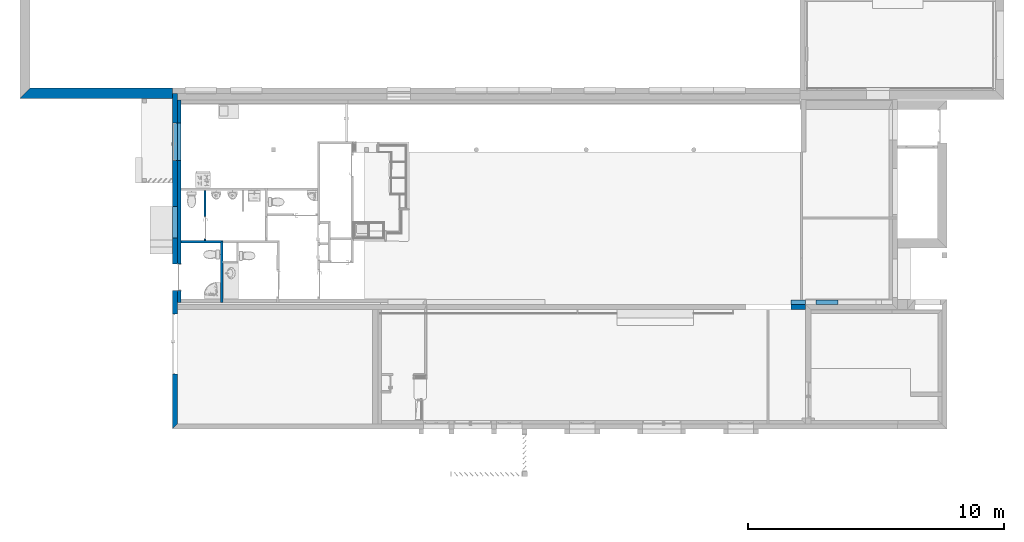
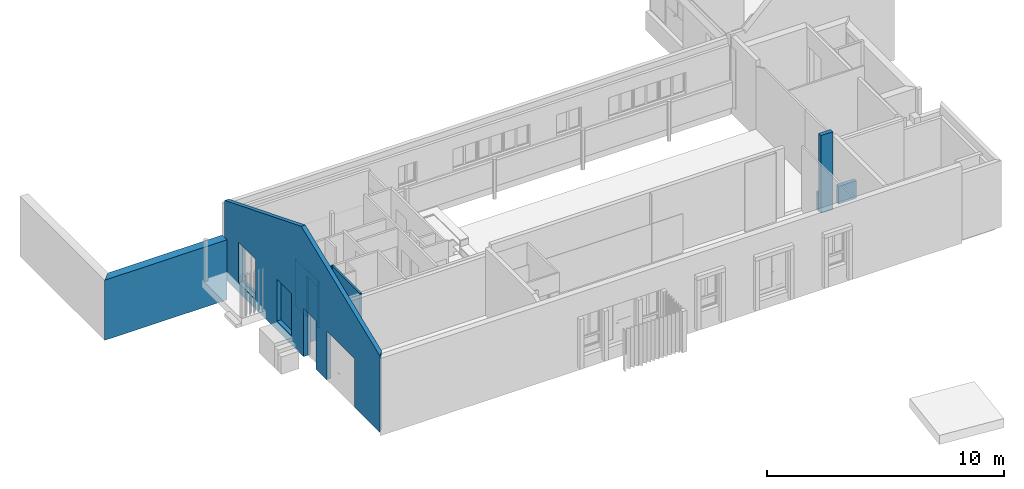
# One storey, part 5 of 34: 9 walls, 7 openings.
"""IFC2X3 building model written with IfcOpenShell, lengths in metres."""

from ifc_helpers import new_model, entity, si_unit, converted_unit, derived_unit, money_unit, direction, frame, origin_with_axes, origin_2d_with_axis, place, context, subcontext, project, spatial, polyline, rectangle, outline, extrude, clip, bounded_halfspace, material, layer, layer_set, layer_usage, type_object, element, save


model = new_model("IFC2X3")

# Units and contexts
model_context = context("Model", 3, precision=1e-05, world=origin_with_axes(), true_north=direction((0.0, 1.0)))
body_context = subcontext(model_context, "Body", "Model", "MODEL_VIEW")
ifc_project = project(units=[si_unit("LENGTHUNIT", "METRE"), si_unit("AREAUNIT", "SQUARE_METRE"), si_unit("VOLUMEUNIT", "CUBIC_METRE"), converted_unit("PLANEANGLEUNIT", "DEGREE", entity("IfcPlaneAngleMeasure", 0.0174532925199), si_unit("PLANEANGLEUNIT", "RADIAN"), dimensions=[0, 0, 0, 0, 0, 0, 0]), money_unit("CHF"), converted_unit("TIMEUNIT", "Year", entity("IfcTimeMeasure", 31556926.0), si_unit("TIMEUNIT", "SECOND"), dimensions=[0, 0, 1, 0, 0, 0, 0]), si_unit("MASSUNIT", "GRAM", prefix="KILO"), si_unit("THERMODYNAMICTEMPERATUREUNIT", "DEGREE_CELSIUS"), si_unit("LUMINOUSINTENSITYUNIT", "LUMEN"), si_unit("ENERGYUNIT", "JOULE", prefix="MEGA"), derived_unit("THERMALCONDUCTANCEUNIT", [(si_unit("POWERUNIT", "WATT"), 1), (si_unit("LENGTHUNIT", "METRE"), -1), (si_unit("THERMODYNAMICTEMPERATUREUNIT", "KELVIN"), -1)]), derived_unit("SPECIFICHEATCAPACITYUNIT", [(si_unit("ENERGYUNIT", "JOULE"), 1), (si_unit("MASSUNIT", "GRAM", prefix="KILO"), -1), (si_unit("THERMODYNAMICTEMPERATUREUNIT", "KELVIN"), -1)]), derived_unit("MASSDENSITYUNIT", [(si_unit("MASSUNIT", "GRAM", prefix="KILO"), 1), (si_unit("VOLUMEUNIT", "CUBIC_METRE"), -1)])], contexts=[model_context])

# Site, building, storey
site_placement = place(None, origin_with_axes())
site = spatial("IfcSite", under=ifc_project, at=site_placement, Name="Site", CompositionType="ELEMENT")
building_placement = place(site_placement, origin_with_axes())
building = spatial("IfcBuilding", under=site, at=building_placement, Name="Bâtiment", CompositionType="ELEMENT")
storey_placement = place(building_placement, origin_with_axes())
storey = spatial("IfcBuildingStorey", under=building, at=storey_placement, Name="RDC", CompositionType="ELEMENT", Elevation=-5.32907e-15)

# Wall, openings
ifc_material_1 = material(Name="Diagonales 1167258944")
ifc_layer_1 = layer(ifc_material_1, 0.2, ventilated="UNKNOWN")
ifc_layer_set_1 = layer_set([ifc_layer_1], Name="Diagonales 1167258944 0.2")
ifc_layer_usage_1 = layer_usage(ifc_layer_set_1, "AXIS2", "NEGATIVE", 0.0)
wall_type_1 = type_object("IfcWallType", Name="Diagonales 1167258944 200", PredefinedType="NOTDEFINED")
wall_1_placement = place(storey_placement, frame((1667.41729001, 177.38004191, 0.0), z_axis=(0.0, 0.0, 1.0), x_axis=(0.0, 1.0, 0.0)))
wall_1 = element("IfcWallStandardCase", 1, at=wall_1_placement, inside=storey, type_object=wall_type_1, material=ifc_layer_usage_1, Name="Mur-006", context=body_context, shape_type="Clipping", body=[
    clip(clip(clip(clip(extrude(outline(polyline([(0.2, -0.2), (13.12, -0.2), (13.12, 0.0), (0.0, 0.0), (0.2, -0.2)])), origin_with_axes(), (0.0, 0.0, 1.0), 6.78521652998), bounded_halfspace(frame((3.21237436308, 0.0, 8.03093590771), z_axis=(-0.371390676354, 0.0, -0.928476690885), x_axis=(0.0, 1.0, 0.0)), True, origin_with_axes(), polyline([(6.67517251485, -0.21), (13.8351825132, -0.21), (13.8351825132, 0.01), (6.67517251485, 0.01), (6.67517251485, -0.21)]))), bounded_halfspace(frame((-1.37205844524, 0.0, 3.4301461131), z_axis=(0.371390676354, 0.0, -0.928476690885), x_axis=(0.0, 1.0, 0.0)), True, origin_with_axes(), polyline([(-0.492892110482, -0.21), (6.66711788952, -0.21), (6.66711788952, 0.01), (-0.492892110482, 0.01), (-0.492892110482, -0.21)]))), bounded_halfspace(frame((3.19162261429, 0.0, 7.97905653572), z_axis=(-0.371390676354, 0.0, -0.928476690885), x_axis=(0.0, 1.0, 0.0)), True, origin_with_axes(), polyline([(6.645, -0.21), (13.6119553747, -0.21), (13.6119553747, 0.01), (6.645, 0.01), (6.645, -0.21)]))), bounded_halfspace(frame((-1.35851916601, 0.0, 3.39629791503), z_axis=(0.371390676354, 0.0, -0.928476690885), x_axis=(0.0, 1.0, 0.0)), True, origin_with_axes(), polyline([(-0.30001, -0.21), (6.645, -0.21), (6.645, 0.01), (-0.30001, 0.01), (-0.30001, -0.21)]))),
])
opening_1_placement = place(wall_1_placement, frame((8.08126066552, 0.0, 0.47), z_axis=(0.0, 0.0, 1.0), x_axis=(1.0, 0.0, 0.0)))
element("IfcOpeningElement", 2, at=opening_1_placement, cuts=wall_1, Name="Por-004", context=body_context, shape_type="SweptSolid", body=[
    extrude(rectangle(XDim=1.24, YDim=2.15, at=origin_2d_with_axis()), frame((0.0, -0.2, 1.075), z_axis=(0.0, 1.0, 0.0), x_axis=(1.0, 0.0, 0.0)), (0.0, 0.0, 1.0), 0.6),
])
opening_2_placement = place(wall_1_placement, frame((3.32, 0.0, 0.0), z_axis=(0.0, 0.0, 1.0), x_axis=(1.0, 0.0, 0.0)))
element("IfcOpeningElement", 3, at=opening_2_placement, cuts=wall_1, Name="Por-006", context=body_context, shape_type="SweptSolid", body=[
    extrude(rectangle(XDim=2.34, YDim=2.5, at=origin_2d_with_axis()), frame((0.0, -0.2, 1.25), z_axis=(0.0, 1.0, 0.0), x_axis=(1.0, 0.0, 0.0)), (0.0, 0.0, 1.0), 0.6),
])
opening_3_placement = place(wall_1_placement, frame((5.93030712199, 0.0, 0.0), z_axis=(0.0, 0.0, 1.0), x_axis=(1.0, 0.0, 0.0)))
element("IfcOpeningElement", 4, at=opening_3_placement, cuts=wall_1, Name="Por-004", context=body_context, shape_type="SweptSolid", body=[
    extrude(rectangle(XDim=1.03, YDim=2.5, at=origin_2d_with_axis()), frame((0.0, 0.0, 1.25), z_axis=(0.0, -1.0, 0.0), x_axis=(1.0, 0.0, 0.0)), (0.0, 0.0, -1.0), 0.2),
    extrude(rectangle(XDim=1.03, YDim=2.5, at=origin_2d_with_axis()), frame((0.0, 0.0, 1.25), z_axis=(0.0, 1.0, 0.0), x_axis=(1.0, 0.0, 0.0)), (0.0, 0.0, -1.0), 0.2),
])
opening_4_placement = place(wall_1_placement, frame((11.2210248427, 0.0, 0.47), z_axis=(0.0, 0.0, 1.0), x_axis=(1.0, 0.0, 0.0)))
element("IfcOpeningElement", 5, at=opening_4_placement, cuts=wall_1, Name="Por-007", context=body_context, shape_type="SweptSolid", body=[
    extrude(rectangle(XDim=1.47, YDim=2.1, at=origin_2d_with_axis()), frame((0.0, 0.0, 1.05), z_axis=(0.0, -1.0, 0.0), x_axis=(1.0, 0.0, 0.0)), (0.0, 0.0, -1.0), 0.2),
    extrude(rectangle(XDim=1.47, YDim=2.1, at=origin_2d_with_axis()), frame((0.0, 0.0, 1.05), z_axis=(0.0, 1.0, 0.0), x_axis=(1.0, 0.0, 0.0)), (0.0, 0.0, -1.0), 0.2),
])

# Walls
ifc_layer_usage_2 = layer_usage(ifc_layer_set_1, "AXIS2", "NEGATIVE", 0.0)
wall_2_placement = place(storey_placement, frame((1692.16729001, 182.05004191, 0.0), z_axis=(0.0, 0.0, 1.0), x_axis=(-1.0, 0.0, 0.0)))
element("IfcWallStandardCase", 6, at=wall_2_placement, inside=storey, type_object=wall_type_1, material=ifc_layer_usage_2, Name="Mur-005", context=body_context, shape_type="SweptSolid", body=[
    extrude(outline(polyline([(0.0, -0.2), (0.580000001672, -0.2), (0.580000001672, 0.0), (0.0, 0.0), (0.0, -0.2)])), origin_with_axes(), (0.0, 0.0, 1.0), 4.0),
])
ifc_layer_2 = layer(ifc_material_1, 0.4, ventilated="UNKNOWN")
ifc_layer_set_2 = layer_set([ifc_layer_2], Name="Diagonales 1167258944 0.4")
ifc_layer_usage_3 = layer_usage(ifc_layer_set_2, "AXIS2", "POSITIVE", 0.0)
wall_type_2 = type_object("IfcWallType", Name="Diagonales 1167258944 400", PredefinedType="NOTDEFINED")
wall_3_placement = place(storey_placement, frame((1667.41729001, 190.70004191, -1.0), z_axis=(0.0, 0.0, 1.0), x_axis=(-1.0, 0.0, 0.0)))
element("IfcWallStandardCase", 7, at=wall_3_placement, inside=storey, type_object=wall_type_2, material=ifc_layer_usage_3, Name="Mur-002", context=body_context, shape_type="SweptSolid", body=[
    extrude(outline(polyline([(0.0, 0.0), (5.55394917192, 0.0), (5.95394917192, 0.4), (0.0, 0.4), (0.0, 0.0)])), origin_with_axes(), (0.0, 0.0, 1.0), 3.1),
])
ifc_layer_3 = layer(ifc_material_1, 0.18, ventilated="UNKNOWN")
ifc_layer_set_3 = layer_set([ifc_layer_3], Name="Diagonales 1167258944 0.18")
ifc_layer_usage_4 = layer_usage(ifc_layer_set_3, "AXIS2", "POSITIVE", 0.0)
wall_type_3 = type_object("IfcWallType", Name="Diagonales 1167258944 180", PredefinedType="NOTDEFINED")
wall_4_placement = place(storey_placement, frame((1691.58729001, 182.25004191, 0.0), z_axis=(0.0, 0.0, 1.0), x_axis=(1.0, 0.0, 0.0)))
element("IfcWallStandardCase", 8, at=wall_4_placement, inside=storey, type_object=wall_type_3, material=ifc_layer_usage_4, Name="Mur-002", context=body_context, shape_type="SweptSolid", body=[
    extrude(outline(polyline([(0.0, 0.0), (0.580000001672, 0.0), (0.580000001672, 0.18), (0.0, 0.18), (0.0, 0.0)])), origin_with_axes(), (0.0, 0.0, 1.0), 0.92),
])
ifc_layer_usage_5 = layer_usage(ifc_layer_set_3, "AXIS2", "POSITIVE", 0.0)
wall_5_placement = place(storey_placement, frame((1692.56328984, 182.25004191, 0.0), z_axis=(0.0, 0.0, 1.0), x_axis=(1.0, 0.0, 0.0)))
element("IfcWallStandardCase", 9, at=wall_5_placement, inside=storey, type_object=wall_type_3, material=ifc_layer_usage_5, Name="Mur-002", context=body_context, shape_type="SweptSolid", body=[
    extrude(outline(polyline([(0.0, 0.0), (0.875000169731, 0.0), (0.875000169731, 0.18), (0.0, 0.18), (0.0, 0.0)])), origin_with_axes(), (0.0, 0.0, 1.0), 0.92),
])

# Wall, openings
ifc_material_2 = material(Name="Isolation laine de pierre 378182646")
ifc_layer_4 = layer(ifc_material_2, 0.12, ventilated="UNKNOWN")
ifc_material_3 = material(Name="Plâtre lissé 291446788")
ifc_layer_5 = layer(ifc_material_3, 0.02, ventilated="UNKNOWN")
ifc_layer_set_4 = layer_set([ifc_layer_4, ifc_layer_5], Name="DOUBLAGE ISO + BA13 14 CM")
ifc_layer_usage_6 = layer_usage(ifc_layer_set_4, "AXIS2", "NEGATIVE", 0.0)
wall_type_4 = type_object("IfcWallType", Name="DOUBLAGE ISO + BA13 14 CM 140", PredefinedType="NOTDEFINED")
wall_6_placement = place(storey_placement, frame((1667.61729001, 182.33004191, 0.0), z_axis=(0.0, 0.0, 1.0), x_axis=(0.0, 1.0, 0.0)))
wall_6 = element("IfcWallStandardCase", 10, at=wall_6_placement, inside=storey, type_object=wall_type_4, material=ifc_layer_usage_6, Name="Mur-006", context=body_context, shape_type="Clipping", body=[
    clip(clip(clip(clip(clip(extrude(outline(polyline([(0.0, -0.14), (7.91, -0.14), (7.91, 0.0), (0.0, 0.0), (0.0, -0.14)])), origin_with_axes(), (0.0, 0.0, 1.0), 3.50000008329), bounded_halfspace(frame((0.844439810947, 0.0, 4.54416553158), z_axis=(-0.182701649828, 0.0, -0.983168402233), x_axis=(0.0, 1.0, 0.0)), True, origin_with_axes(), polyline([(6.2499999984, -0.15), (8.8700099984, -0.15), (8.8700099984, 0.01), (6.2499999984, 0.01), (6.2499999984, -0.15)]))), bounded_halfspace(frame((2.37261899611, 0.0, 5.27193227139), z_axis=(-0.410400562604, 0.0, -0.911905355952), x_axis=(0.0, 1.0, 0.0)), True, origin_with_axes(), polyline([(0.49854319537, -0.15), (6.2499999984, -0.15), (6.2499999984, 0.01), (0.49854319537, 0.01), (0.49854319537, -0.15)]))), bounded_halfspace(frame((2.56748715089, 0.0, 5.7049270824), z_axis=(-0.410400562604, 0.0, -0.911905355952), x_axis=(0.0, 1.0, 0.0)), True, origin_with_axes(), polyline([(1.133479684, -0.15), (8.8700099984, -0.15), (8.8700099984, 0.01), (1.133479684, 0.01), (1.133479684, -0.15)]))), bounded_halfspace(frame((-2.18566630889, 0.0, 4.85652553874), z_axis=(0.410400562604, 0.0, -0.911905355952), x_axis=(0.0, 1.0, 0.0)), True, origin_with_axes(), polyline([(-5.45001, -0.15), (1.133479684, -0.15), (1.133479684, 0.01), (-5.45001, 0.01), (-5.45001, -0.15)]))), bounded_halfspace(frame((-2.20468110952, 0.0, 4.89877620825), z_axis=(0.410400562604, 0.0, -0.911905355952), x_axis=(0.0, 1.0, 0.0)), True, origin_with_axes(), polyline([(-5.14001, -0.15), (0.49854319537, -0.15), (0.49854319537, 0.01), (-5.14001, 0.01), (-5.14001, -0.15)]))),
])
opening_5_placement = place(wall_6_placement, frame((0.980307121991, 0.0, 0.0), z_axis=(0.0, 0.0, 1.0), x_axis=(1.0, 0.0, 0.0)))
element("IfcOpeningElement", 11, at=opening_5_placement, cuts=wall_6, Name="Por-004", context=body_context, shape_type="SweptSolid", body=[
    extrude(rectangle(XDim=1.03, YDim=2.5, at=origin_2d_with_axis()), frame((0.0, 0.14, 1.25), z_axis=(0.0, -1.0, 0.0), x_axis=(1.0, 0.0, 0.0)), (0.0, 0.0, 1.0), 0.42),
    extrude(rectangle(XDim=1.104, YDim=2.537, at=origin_2d_with_axis()), frame((0.0, 0.0, 1.2685), z_axis=(0.0, -1.0, 0.0), x_axis=(1.0, 0.0, 0.0)), (0.0, 0.0, -1.0), 0.14),
    extrude(rectangle(XDim=1.104, YDim=2.537, at=origin_2d_with_axis()), frame((0.0, -0.14, 1.2685), z_axis=(0.0, 1.0, 0.0), x_axis=(1.0, 0.0, 0.0)), (0.0, 0.0, -1.0), 0.14),
])
opening_6_placement = place(wall_6_placement, frame((6.27102484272, 0.0, 0.47), z_axis=(0.0, 0.0, 1.0), x_axis=(1.0, 0.0, 0.0)))
element("IfcOpeningElement", 12, at=opening_6_placement, cuts=wall_6, Name="Por-006", context=body_context, shape_type="SweptSolid", body=[
    extrude(rectangle(XDim=1.47, YDim=2.1, at=origin_2d_with_axis()), frame((0.0, 0.06, 1.05), z_axis=(0.0, 1.0, 0.0), x_axis=(1.0, 0.0, 0.0)), (0.0, 0.0, -1.0), 0.34),
    extrude(rectangle(XDim=1.47, YDim=2.1, at=origin_2d_with_axis()), frame((0.0, 0.06, 1.05), z_axis=(0.0, -1.0, 0.0), x_axis=(1.0, 0.0, 0.0)), (0.0, 0.0, -1.0), 0.2),
])

# Wall, opening
ifc_layer_6 = layer(ifc_material_3, 0.018, ventilated="UNKNOWN")
ifc_material_4 = material(Name="Isolation laine de pierre 378641718")
ifc_layer_7 = layer(ifc_material_4, 0.045, ventilated="UNKNOWN")
ifc_layer_8 = layer(ifc_material_3, 0.018, ventilated="UNKNOWN")
ifc_layer_set_5 = layer_set([ifc_layer_6, ifc_layer_7, ifc_layer_8], Name="CLOISON 84/45 iso")
ifc_layer_usage_7 = layer_usage(ifc_layer_set_5, "AXIS2", "NEGATIVE", 0.0)
wall_type_5 = type_object("IfcWallType", Name="CLOISON 84/45 iso 81", PredefinedType="NOTDEFINED")
wall_7_placement = place(storey_placement, frame((1668.65729001, 184.749435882, 0.47), z_axis=(0.0, 0.0, 1.0), x_axis=(0.0, 1.0, 0.0)))
wall_7 = element("IfcWallStandardCase", 13, at=wall_7_placement, inside=storey, type_object=wall_type_5, material=ifc_layer_usage_7, Name="Mur-010", context=body_context, shape_type="SweptSolid", body=[
    extrude(outline(polyline([(0.0, -0.081), (1.95247103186, -0.081), (1.95247103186, 0.0), (0.0, 0.0), (0.0, -0.081)])), origin_with_axes(), (0.0, 0.0, 1.0), 2.41),
])
opening_7_placement = place(wall_7_placement, frame((0.493, 0.0, 0.0), z_axis=(0.0, 0.0, 1.0), x_axis=(1.0, 0.0, 0.0)))
element("IfcOpeningElement", 14, at=opening_7_placement, cuts=wall_7, Name="Por-004", context=body_context, shape_type="SweptSolid", body=[
    extrude(rectangle(XDim=0.886, YDim=2.118, at=origin_2d_with_axis()), frame((0.0, -0.081, 1.059), z_axis=(0.0, 1.0, 0.0), x_axis=(-1.0, 0.0, 0.0)), (0.0, 0.0, 1.0), 0.243),
])

# Walls
ifc_layer_9 = layer(ifc_material_3, 0.015, ventilated="UNKNOWN")
ifc_material_5 = material(Name="Isolation laine de pierre 307970822")
ifc_layer_10 = layer(ifc_material_5, 0.07, ventilated="UNKNOWN")
ifc_layer_11 = layer(ifc_material_3, 0.015, ventilated="UNKNOWN")
ifc_layer_set_6 = layer_set([ifc_layer_9, ifc_layer_10, ifc_layer_11], Name="CLOISON 10 ROUGE")
ifc_layer_usage_8 = layer_usage(ifc_layer_set_6, "AXIS2", "POSITIVE", 0.0)
wall_type_6 = type_object("IfcWallType", Name="CLOISON 10 ROUGE 100", PredefinedType="NOTDEFINED")
wall_8_placement = place(storey_placement, frame((1667.61729001, 184.649435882, -0.03), z_axis=(0.0, 0.0, 1.0), x_axis=(1.0, 0.0, 0.0)))
element("IfcWallStandardCase", 15, at=wall_8_placement, inside=storey, type_object=wall_type_6, material=ifc_layer_usage_8, Name="Mur-010", context=body_context, shape_type="SweptSolid", body=[
    extrude(outline(polyline([(0.14, 0.0), (1.67753279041, 0.0), (1.77753279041, 0.1), (0.14, 0.1), (0.14, 0.0)])), origin_with_axes(), (0.0, 0.0, 1.0), 3.53),
])
ifc_layer_usage_9 = layer_usage(ifc_layer_set_6, "AXIS2", "NEGATIVE", 0.0)
wall_9_placement = place(storey_placement, frame((1669.2948228, 182.33004191, 0.47), z_axis=(0.0, 0.0, 1.0), x_axis=(0.0, 1.0, 0.0)))
element("IfcWallStandardCase", 16, at=wall_9_placement, inside=storey, type_object=wall_type_6, material=ifc_layer_usage_9, Name="Mur-010", context=body_context, shape_type="SweptSolid", body=[
    extrude(outline(polyline([(0.0, -0.1), (2.41939397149, -0.1), (2.31939397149, 0.0), (0.0, 0.0), (0.0, -0.1)])), origin_with_axes(), (0.0, 0.0, 1.0), 3.03),
])

save(model, "model.ifc")
